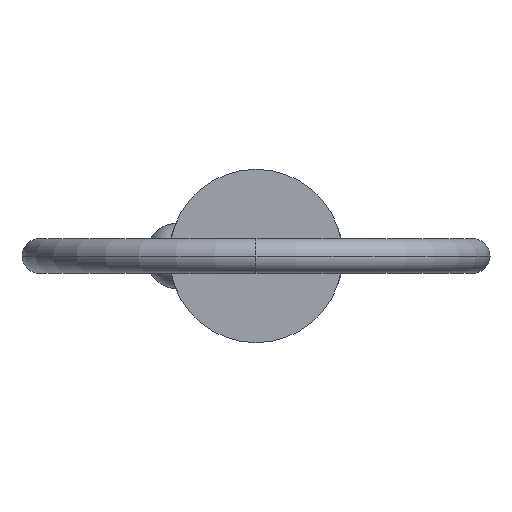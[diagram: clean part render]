
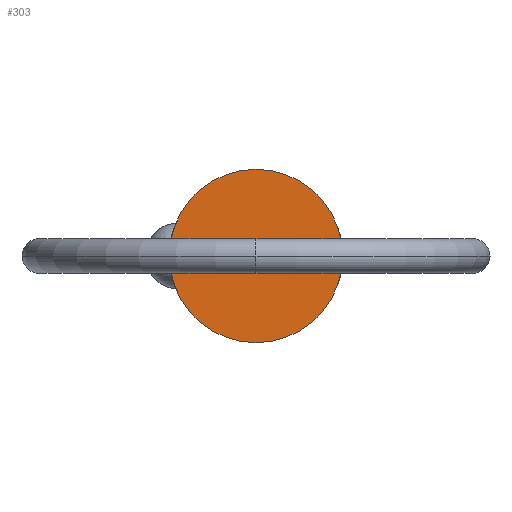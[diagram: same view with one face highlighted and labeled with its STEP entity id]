
A CAD part, left-side view. The second image highlights one B-rep face of the part: STEP entity #303.
In plain terms, the highlighted planar face has unit normal (-1, 0, 0).
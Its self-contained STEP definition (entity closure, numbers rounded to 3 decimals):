
#9 = CARTESIAN_POINT ( 'NONE',  ( 0., 0., 0. ) ) ;
#59 = AXIS2_PLACEMENT_3D ( 'NONE', #9, #281, #140 ) ;
#61 = CARTESIAN_POINT ( 'NONE',  ( 0., 0., 0. ) ) ;
#127 = VERTEX_POINT ( 'NONE', #471 ) ;
#128 = AXIS2_PLACEMENT_3D ( 'NONE', #820, #895, #881 ) ;
#130 = ORIENTED_EDGE ( 'NONE', *, *, #347, .F. ) ;
#140 = DIRECTION ( 'NONE',  ( 0., 0., 1. ) ) ;
#219 = PLANE ( 'NONE',  #59 ) ;
#223 = FACE_OUTER_BOUND ( 'NONE', #406, .T. ) ;
#258 = DIRECTION ( 'NONE',  ( 0., 0., -1. ) ) ;
#281 = DIRECTION ( 'NONE',  ( -1., 0., 0. ) ) ;
#303 = ADVANCED_FACE ( 'NONE', ( #223 ), #219, .T. ) ;
#341 = CARTESIAN_POINT ( 'NONE',  ( 0., 0., 6.35 ) ) ;
#347 = EDGE_CURVE ( 'NONE', #127, #692, #730, .T. ) ;
#406 = EDGE_LOOP ( 'NONE', ( #130, #481 ) ) ;
#471 = CARTESIAN_POINT ( 'NONE',  ( 0., 0., -6.35 ) ) ;
#481 = ORIENTED_EDGE ( 'NONE', *, *, #693, .F. ) ;
#530 = CIRCLE ( 'NONE', #128, 6.35 ) ;
#692 = VERTEX_POINT ( 'NONE', #341 ) ;
#693 = EDGE_CURVE ( 'NONE', #692, #127, #530, .T. ) ;
#730 = CIRCLE ( 'NONE', #844, 6.35 ) ;
#769 = DIRECTION ( 'NONE',  ( 1., 0., 0. ) ) ;
#820 = CARTESIAN_POINT ( 'NONE',  ( 0., 0., 0. ) ) ;
#844 = AXIS2_PLACEMENT_3D ( 'NONE', #61, #769, #258 ) ;
#881 = DIRECTION ( 'NONE',  ( 0., 0., -1. ) ) ;
#895 = DIRECTION ( 'NONE',  ( 1., 0., 0. ) ) ;
